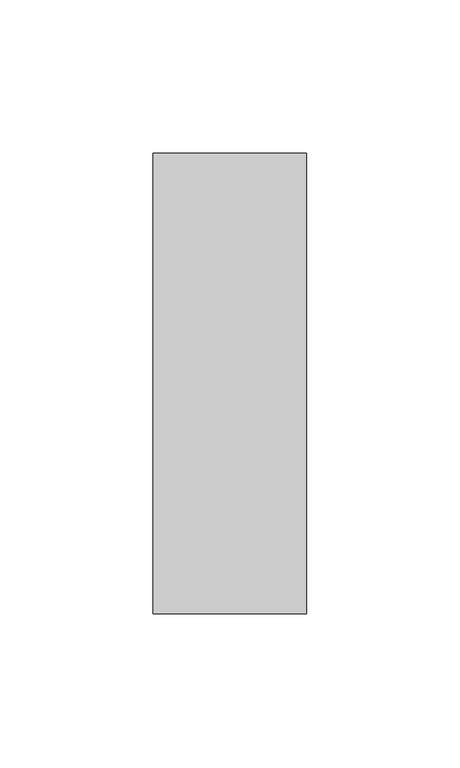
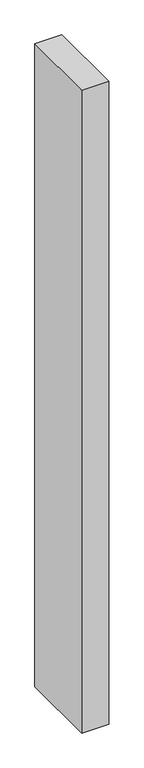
"""IFC4 building model written with IfcOpenShell, lengths in millimetres: member geometry, Прямоугольный импост : 50 x 150 мм."""

from ifc_helpers import new_model, si_unit, frame, origin, place, context, project, spatial, polyline, outline, extrude, source, transform, mapped, element, save


def member_c3c56f7e(model_context):
    return source(origin(), model_context, "Body", "SweptSolid", [
        extrude(outline(polyline([(25.0, 75.0), (25.0, -75.0), (-25.0, -75.0), (-25.0, 75.0), (25.0, 75.0)])), frame((0.0, 0.0, -1257.4112956), z_axis=(0.0, 0.0, 1.0), x_axis=(1.0, 0.0, 0.0)), (0.0, 0.0, 1.0), 1257.4112956),
    ])


if __name__ == "__main__":
    model = new_model("IFC4")
    model_context = context("Model", 3, world=origin())
    ifc_project = project(units=[si_unit("LENGTHUNIT", "METRE", prefix="MILLI")], contexts=[model_context])
    site = spatial("IfcSite", under=ifc_project)
    building = spatial("IfcBuilding", under=site)
    placement = place(None, origin())
    member_shape = member_c3c56f7e(model_context)
    element("IfcMember", 1, ObjectType="Прямоугольный импост : 50 x 150 мм", at=placement, inside=building, context=model_context, shape_type="MappedRepresentation", body=[
        mapped(member_shape, transform((0.0, 0.0, 0.0), x_axis=(1.0, 0.0, 0.0), y_axis=(0.0, 1.0, 0.0), z_axis=(0.0, 0.0, 1.0))),
    ])
    save(model, "model.ifc")
